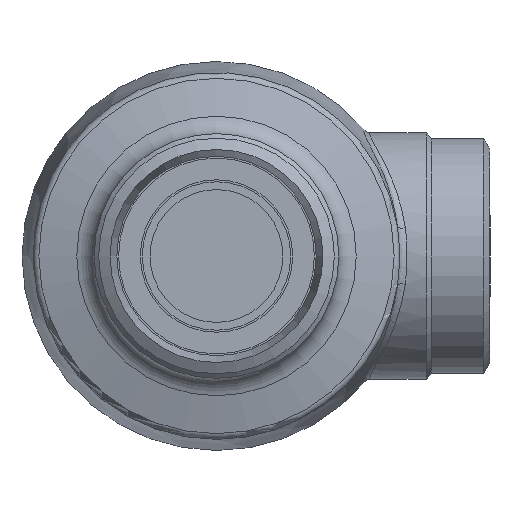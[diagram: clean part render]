
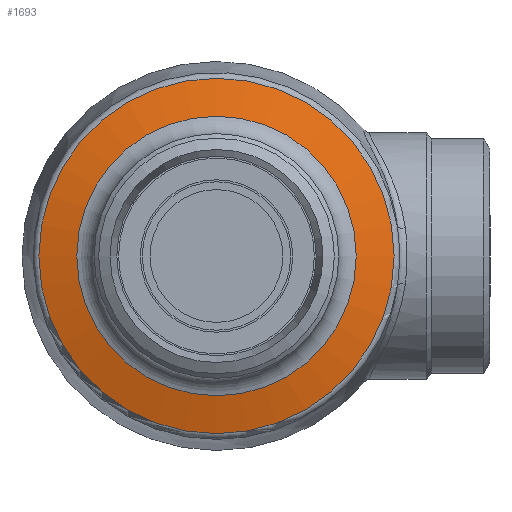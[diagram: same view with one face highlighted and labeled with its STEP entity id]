
A CAD part, front view. The second image highlights one B-rep face of the part: STEP entity #1693.
In plain terms, the highlighted conical face has half-angle 75 degrees and reference radius 40.613 mm.
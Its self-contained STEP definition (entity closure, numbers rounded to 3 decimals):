
#292=FACE_BOUND('',#618,.T.);
#459=FACE_OUTER_BOUND('',#617,.T.);
#617=EDGE_LOOP('',(#1337));
#618=EDGE_LOOP('',(#1338));
#821=CIRCLE('',#1855,45.465);
#824=CIRCLE('',#1862,35.762);
#941=VERTEX_POINT('',#3145);
#943=VERTEX_POINT('',#3154);
#1105=EDGE_CURVE('',#941,#941,#821,.T.);
#1108=EDGE_CURVE('',#943,#943,#824,.T.);
#1337=ORIENTED_EDGE('',*,*,#1108,.F.);
#1338=ORIENTED_EDGE('',*,*,#1105,.T.);
#1646=CONICAL_SURFACE('',#1861,40.613,75.);
#1693=ADVANCED_FACE('',(#459,#292),#1646,.T.);
#1855=AXIS2_PLACEMENT_3D('',#3146,#2181,#2182);
#1861=AXIS2_PLACEMENT_3D('',#3153,#2193,#2194);
#1862=AXIS2_PLACEMENT_3D('',#3155,#2195,#2196);
#2181=DIRECTION('center_axis',(0.,-1.,0.));
#2182=DIRECTION('ref_axis',(1.,0.,0.));
#2193=DIRECTION('center_axis',(0.,1.,0.));
#2194=DIRECTION('ref_axis',(1.,0.,0.));
#2195=DIRECTION('center_axis',(0.,-1.,0.));
#2196=DIRECTION('ref_axis',(1.,0.,0.));
#3145=CARTESIAN_POINT('',(45.465,-87.19,0.));
#3146=CARTESIAN_POINT('Origin',(0.,-87.19,0.));
#3153=CARTESIAN_POINT('Origin',(0.,-88.49,0.));
#3154=CARTESIAN_POINT('',(35.762,-89.79,0.));
#3155=CARTESIAN_POINT('Origin',(0.,-89.79,
0.));
